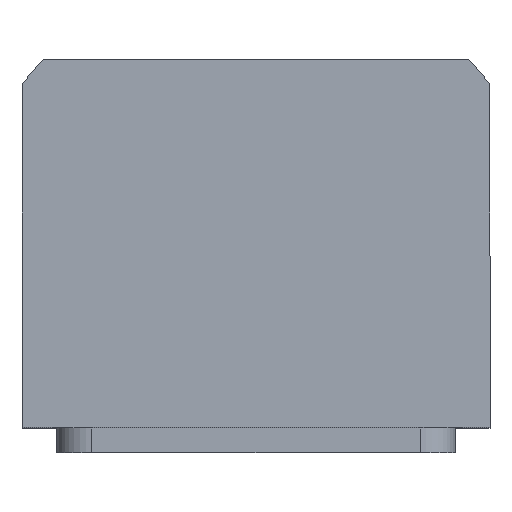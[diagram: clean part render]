
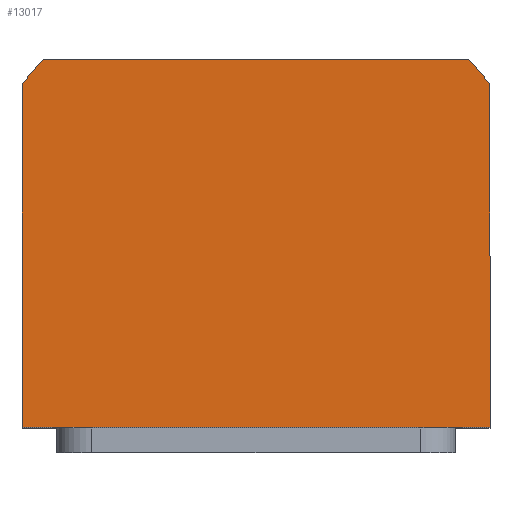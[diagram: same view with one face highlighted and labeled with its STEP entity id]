
A CAD part, top view. The second image highlights one B-rep face of the part: STEP entity #13017.
In plain terms, the highlighted planar face has unit normal (0, 0, 1).
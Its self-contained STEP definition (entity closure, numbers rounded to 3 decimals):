
#345 = VERTEX_POINT ( 'NONE', #12675 ) ;
#406 = VERTEX_POINT ( 'NONE', #7878 ) ;
#670 = EDGE_LOOP ( 'NONE', ( #8686, #3400, #2333, #9862, #8052, #11349 ) ) ;
#725 = LINE ( 'NONE', #8600, #13546 ) ;
#758 = CARTESIAN_POINT ( 'NONE',  ( -47., -34., 52.5 ) ) ;
#888 = VERTEX_POINT ( 'NONE', #7147 ) ;
#993 = DIRECTION ( 'NONE',  ( 0., 0., 1. ) ) ;
#1217 = EDGE_CURVE ( 'NONE', #888, #345, #14897, .T. ) ;
#1285 = EDGE_CURVE ( 'NONE', #8643, #7206, #4855, .T. ) ;
#2333 = ORIENTED_EDGE ( 'NONE', *, *, #1217, .T. ) ;
#2797 = VECTOR ( 'NONE', #8171, 1000. ) ;
#2888 = EDGE_CURVE ( 'NONE', #7206, #13712, #8297, .T. ) ;
#3194 = AXIS2_PLACEMENT_3D ( 'NONE', #15037, #12892, #14060 ) ;
#3400 = ORIENTED_EDGE ( 'NONE', *, *, #12587, .T. ) ;
#3844 = VECTOR ( 'NONE', #13976, 1000. ) ;
#4855 = CIRCLE ( 'NONE', #3194, 58.5 ) ;
#5193 = VECTOR ( 'NONE', #6677, 1000. ) ;
#5323 = FACE_OUTER_BOUND ( 'NONE', #670, .T. ) ;
#5934 = CARTESIAN_POINT ( 'NONE',  ( -42.688, 40., 52.5 ) ) ;
#6313 = DIRECTION ( 'NONE',  ( 0., 1., 0. ) ) ;
#6494 = DIRECTION ( 'NONE',  ( 0., 0., 1. ) ) ;
#6621 = CARTESIAN_POINT ( 'NONE',  ( -47., -34., 52.5 ) ) ;
#6677 = DIRECTION ( 'NONE',  ( 0., -1., 0. ) ) ;
#7147 = CARTESIAN_POINT ( 'NONE',  ( 47., 34.832, 52.5 ) ) ;
#7206 = VERTEX_POINT ( 'NONE', #7872 ) ;
#7861 = LINE ( 'NONE', #9225, #3844 ) ;
#7872 = CARTESIAN_POINT ( 'NONE',  ( -47., 34.832, 52.5 ) ) ;
#7878 = CARTESIAN_POINT ( 'NONE',  ( 47., -34., 52.5 ) ) ;
#8052 = ORIENTED_EDGE ( 'NONE', *, *, #1285, .T. ) ;
#8131 = DIRECTION ( 'NONE',  ( 1., 0., 0. ) ) ;
#8171 = DIRECTION ( 'NONE',  ( -1., 0., 0. ) ) ;
#8297 = LINE ( 'NONE', #758, #5193 ) ;
#8600 = CARTESIAN_POINT ( 'NONE',  ( 47., 34.832, 52.5 ) ) ;
#8643 = VERTEX_POINT ( 'NONE', #10891 ) ;
#8686 = ORIENTED_EDGE ( 'NONE', *, *, #15018, .T. ) ;
#8980 = AXIS2_PLACEMENT_3D ( 'NONE', #15134, #993, #8131 ) ;
#9225 = CARTESIAN_POINT ( 'NONE',  ( 47., -34., 52.5 ) ) ;
#9862 = ORIENTED_EDGE ( 'NONE', *, *, #12091, .T. ) ;
#10891 = CARTESIAN_POINT ( 'NONE',  ( -42.688, 40., 52.5 ) ) ;
#11082 = DIRECTION ( 'NONE',  ( 1., 0., 0. ) ) ;
#11349 = ORIENTED_EDGE ( 'NONE', *, *, #2888, .T. ) ;
#11916 = AXIS2_PLACEMENT_3D ( 'NONE', #12297, #6494, #11082 ) ;
#12091 = EDGE_CURVE ( 'NONE', #345, #8643, #14675, .T. ) ;
#12200 = PLANE ( 'NONE',  #11916 ) ;
#12297 = CARTESIAN_POINT ( 'NONE',  ( 0., 0., 52.5 ) ) ;
#12587 = EDGE_CURVE ( 'NONE', #406, #888, #725, .T. ) ;
#12675 = CARTESIAN_POINT ( 'NONE',  ( 42.688, 40., 52.5 ) ) ;
#12892 = DIRECTION ( 'NONE',  ( 0., 0., 1. ) ) ;
#13017 = ADVANCED_FACE ( 'NONE', ( #5323 ), #12200, .T. ) ;
#13546 = VECTOR ( 'NONE', #6313, 1000. ) ;
#13712 = VERTEX_POINT ( 'NONE', #6621 ) ;
#13976 = DIRECTION ( 'NONE',  ( 1., 0., 0. ) ) ;
#14060 = DIRECTION ( 'NONE',  ( 1., 0., 0. ) ) ;
#14675 = LINE ( 'NONE', #5934, #2797 ) ;
#14897 = CIRCLE ( 'NONE', #8980, 58.5 ) ;
#15018 = EDGE_CURVE ( 'NONE', #13712, #406, #7861, .T. ) ;
#15037 = CARTESIAN_POINT ( 'NONE',  ( 0., 0., 52.5 ) ) ;
#15134 = CARTESIAN_POINT ( 'NONE',  ( 0., 0., 52.5 ) ) ;
